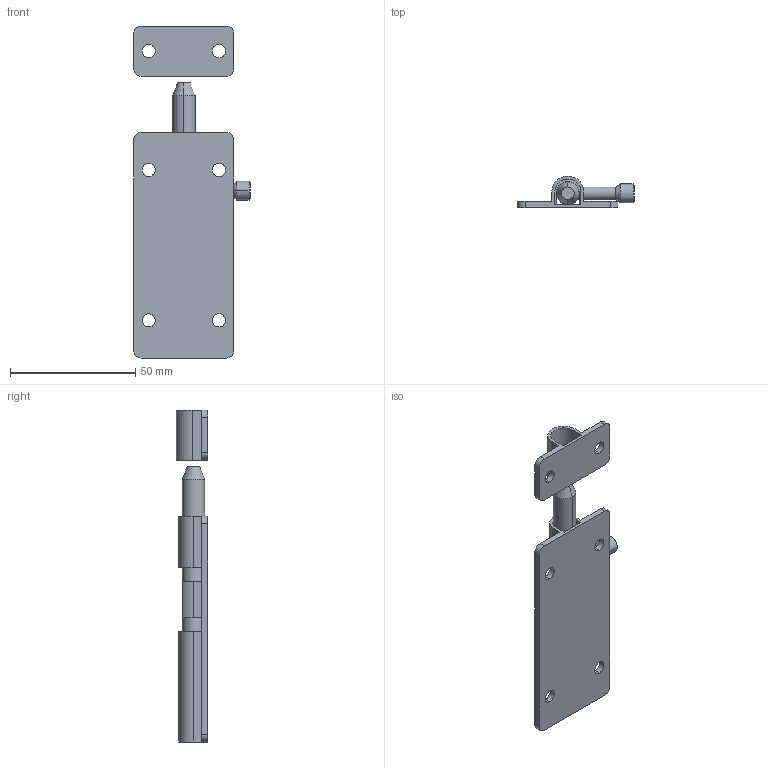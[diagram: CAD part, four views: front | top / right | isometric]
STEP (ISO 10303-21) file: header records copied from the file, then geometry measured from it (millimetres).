
FILE_DESCRIPTION (( 'STEP AP203' ), '1' );
FILE_NAME ('DL-153S-1.STEP', '2013-07-07T02:29:38', ( 'SDS' ), ( 'SDS' ), 'SwSTEP 2.0', 'SolidWorks 2002296', '' );
FILE_SCHEMA (( 'CONFIG_CONTROL_DESIGN' ));
Length unit declared in the file: millimetre
Products named in the file (4): DL-153S-1; DL-153S-1-1_蹬怮椔; DL-153S-1-2_蹬怮椔; DL-153S-1-3_蹬怮椔
Assembly tree (3 placements, depth 2):
  DL-153S-1
    DL-153S-1-2_蹬怮椔
    DL-153S-1-1_蹬怮椔
    DL-153S-1-3_蹬怮椔
Bounding box: 46.5 x 12.5 x 132.43 mm (x, y, z)
Volume: 16723.2 mm3; surface area: 16838.1 mm2
Topology: 3 solids, 3 shells, 85 faces, 231 edges, 151 vertices
Faces by surface type: plane 40, cylinder 39, cone 6
Entity records: 3197 total; most frequent: CARTESIAN_POINT 531, DIRECTION 491, ORIENTED_EDGE 462, EDGE_CURVE 231, AXIS2_PLACEMENT_3D 171, VERTEX_POINT 151, LINE 149, VECTOR 149
